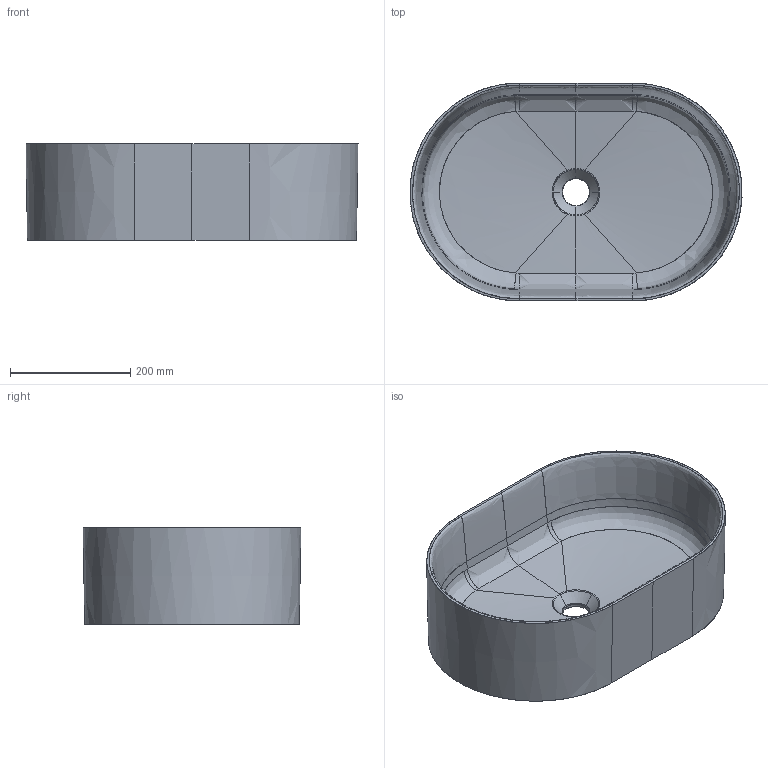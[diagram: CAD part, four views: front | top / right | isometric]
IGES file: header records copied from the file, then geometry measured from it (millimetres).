
Start section: START RECORD GO HERE.
Global section: file name: 7336_3D_IGS.igs; native system: DASSAULT SYSTEMES CATIA V5 R19 - www.3ds.com; preprocessor: CATIA Version 5 Release 19 SP 5 ; author: Luca; organization: DESKTOP-V7SON24; date: 20220503.084347; units: millimetre
Bounding box: 551.43 x 362.02 x 160.21 mm (x, y, z)
Surface area: 749821.2 mm2 (no closed solid volume)
Topology: 0 solids, 0 shells, 148 faces, 672 edges, 670 vertices
Faces by surface type: bspline 110, revolution 28, plane 10
